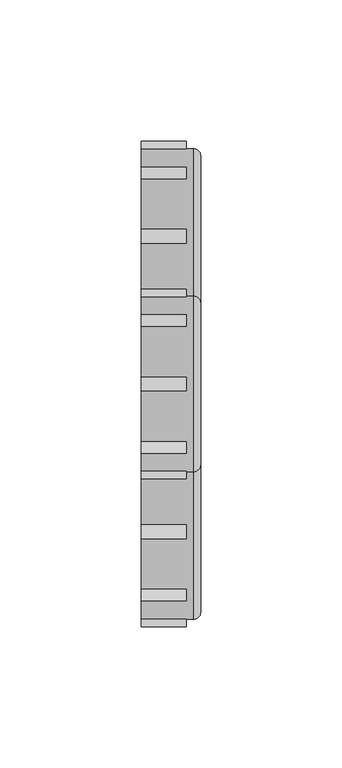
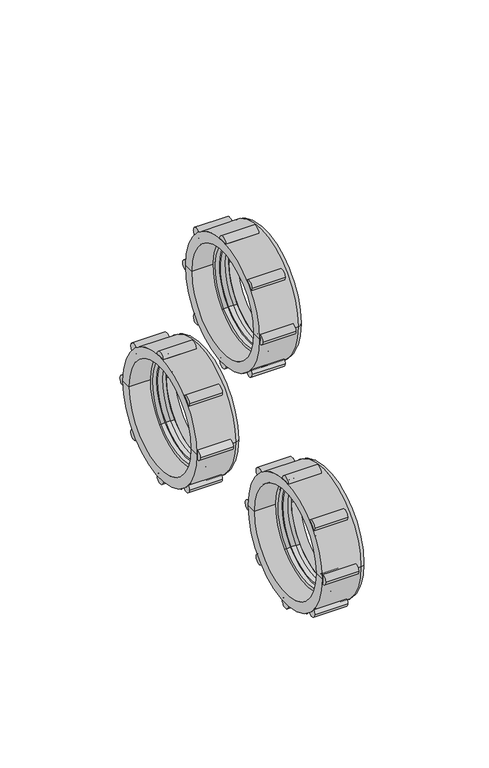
"""IFC4 building model written with IfcOpenShell, lengths in millimetres: pipe fitting geometry, Durapipe_PipeAccessories_VulcatheneMechanical_DilutionRecoveryTrap4.5L_W612 : W612 - 4.5 ltr."""

from ifc_helpers import new_model, si_unit, point, frame, frame_2d, origin, place, context, project, spatial, polyline, circle_curve, ellipse_curve, trimmed, segment, composite_curve, outline, extrude, source, transform, mapped, element, save
from ifc_brep_helpers import plane_surface, cylinder_surface, revolved_surface, advanced_brep


def pipe_fitting_c0f0be52(model_context):
    return source(origin(), model_context, "Body", "SolidModel", [
        advanced_brep(
        [(122.8995372, -33.9289169, -48.4765656), (122.8995372, -34.1410489, -48.2644336), (122.8995372, -70.3449161, -12.0605664), (122.8995372, -70.5570481, -11.8484344), (127.8995372, -70.8398908, -11.5655917), (127.8995372, -69.3549666, -13.0505159), (127.8995372, -35.1309984, -47.2744841), (127.8995372, -33.6460741, -48.7594083), (121.3995372, -70.3449161, -12.0605664), (121.3995372, -34.1410489, -48.2644336), (121.3995372, -35.1309984, -47.2744841), (121.3995372, -69.3549666, -13.0505159), (123.3995372, -35.1309984, -47.2744841), (123.3995372, -69.3549666, -13.0505159), (123.3995372, -35.6966838, -46.7087987), (123.3995372, -68.7892812, -13.6162013), (125.6995372, -69.3549666, -13.0505159), (125.6995372, -68.7892812, -13.6162013), (125.6995372, -35.6966838, -46.7087987), (125.6995372, -35.1309984, -47.2744841)],
        [
            (0, 1),
            (1, 2, circle_curve(frame((122.8995372, -52.2429825, -30.1625), z_axis=(1.0, 0.0, 0.0), x_axis=(0.0, 0.7071067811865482, -0.7071067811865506)), 25.6)),
            (2, 3),
            (3, 0, circle_curve(frame((122.8995372, -52.2429825, -30.1625), z_axis=(-1.0, 0.0, 0.0), x_axis=(0.0, 0.7071067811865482, -0.7071067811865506)), 25.9)),
            (2, 1, circle_curve(frame((122.8995372, -52.2429825, -30.1625), z_axis=(1.0, 0.0, 0.0), x_axis=(0.0, 0.7071067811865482, -0.7071067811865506)), 25.6)),
            (0, 3, circle_curve(frame((122.8995372, -52.2429825, -30.1625), z_axis=(-1.0, 0.0, 0.0), x_axis=(0.0, 0.7071067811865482, -0.7071067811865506)), 25.9)),
            (4, 5),
            (5, 6, circle_curve(frame((127.8995372, -52.2429825, -30.1625), z_axis=(-1.0, 0.0, 0.0), x_axis=(0.0, 0.7071067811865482, -0.7071067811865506)), 24.2)),
            (6, 7),
            (7, 4, circle_curve(frame((127.8995372, -52.2429825, -30.1625), z_axis=(1.0, 0.0, 0.0), x_axis=(0.0, 0.7071067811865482, -0.7071067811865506)), 26.3)),
            (6, 5, circle_curve(frame((127.8995372, -52.2429825, -30.1625), z_axis=(-1.0, 0.0, 0.0), x_axis=(0.0, 0.7071067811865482, -0.7071067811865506)), 24.2)),
            (4, 7, circle_curve(frame((127.8995372, -52.2429825, -30.1625), z_axis=(1.0, 0.0, 0.0), x_axis=(0.0, 0.7071067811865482, -0.7071067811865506)), 26.3)),
            (3, 4),
            (7, 0),
            (8, 2),
            (1, 9),
            (9, 8, circle_curve(frame((121.3995372, -52.2429825, -30.1625), z_axis=(1.0, 0.0, 0.0), x_axis=(0.0, 0.7071067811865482, -0.7071067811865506)), 25.6)),
            (8, 9, circle_curve(frame((121.3995372, -52.2429825, -30.1625), z_axis=(1.0, 0.0, 0.0), x_axis=(0.0, 0.7071067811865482, -0.7071067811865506)), 25.6)),
            (9, 10),
            (10, 11, circle_curve(frame((121.3995372, -52.2429825, -30.1625), z_axis=(1.0, 0.0, 0.0), x_axis=(0.0, 0.7071067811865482, -0.7071067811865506)), 24.2)),
            (11, 8),
            (11, 10, circle_curve(frame((121.3995372, -52.2429825, -30.1625), z_axis=(1.0, 0.0, 0.0), x_axis=(0.0, 0.7071067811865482, -0.7071067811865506)), 24.2)),
            (10, 12),
            (12, 13, circle_curve(frame((123.3995372, -52.2429825, -30.1625), z_axis=(1.0, 0.0, 0.0), x_axis=(0.0, 0.7071067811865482, -0.7071067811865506)), 24.2)),
            (13, 11),
            (13, 12, circle_curve(frame((123.3995372, -52.2429825, -30.1625), z_axis=(1.0, 0.0, 0.0), x_axis=(0.0, 0.7071067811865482, -0.7071067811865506)), 24.2)),
            (12, 14),
            (14, 15, circle_curve(frame((123.3995372, -52.2429825, -30.1625), z_axis=(1.0, 0.0, 0.0), x_axis=(0.0, 0.7071067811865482, -0.7071067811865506)), 23.4)),
            (15, 13),
            (15, 14, circle_curve(frame((123.3995372, -52.2429825, -30.1625), z_axis=(1.0, 0.0, 0.0), x_axis=(0.0, 0.7071067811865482, -0.7071067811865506)), 23.4)),
            (16, 17),
            (17, 18, circle_curve(frame((125.6995372, -52.2429825, -30.1625), z_axis=(-1.0, 0.0, 0.0), x_axis=(0.0, 0.7071067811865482, -0.7071067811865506)), 23.4)),
            (18, 19),
            (19, 16, circle_curve(frame((125.6995372, -52.2429825, -30.1625), z_axis=(1.0, 0.0, 0.0), x_axis=(0.0, 0.7071067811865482, -0.7071067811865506)), 24.2)),
            (18, 17, circle_curve(frame((125.6995372, -52.2429825, -30.1625), z_axis=(-1.0, 0.0, 0.0), x_axis=(0.0, 0.7071067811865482, -0.7071067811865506)), 23.4)),
            (16, 19, circle_curve(frame((125.6995372, -52.2429825, -30.1625), z_axis=(1.0, 0.0, 0.0), x_axis=(0.0, 0.7071067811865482, -0.7071067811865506)), 24.2)),
            (5, 16),
            (19, 6),
            (14, 18),
            (17, 15),
        ],
        [
            plane_surface(frame((122.8995372, -52.2429825, -30.1625), z_axis=(-1.0, 0.0, 0.0), x_axis=(0.0, 0.7071067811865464, -0.7071067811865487))),
            plane_surface(frame((127.8995372, -52.2429825, -30.1625), z_axis=(1.0, 0.0, 0.0), x_axis=(0.0, 0.7071067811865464, -0.7071067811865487))),
            revolved_surface(polyline([(127.8995372, -33.6460741, -48.7594083), (122.8995372, -33.9289169, -48.4765656)]), (132.8995372, -52.2429825, -30.1625), (-1.0000000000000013, 0.0, 0.0)),
            cylinder_surface(frame((119.3288815, -52.2429825, -30.1625), z_axis=(-1.0000000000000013, 0.0, 0.0), x_axis=(0.0, 0.7071067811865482, -0.7071067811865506)), 25.6),
            plane_surface(frame((121.3995372, -52.2429825, -30.1625), z_axis=(-1.0, 0.0, 0.0), x_axis=(0.0, 0.7071067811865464, -0.7071067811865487))),
            revolved_surface(polyline([(121.39953720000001, -35.13099839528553, -47.274484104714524), (123.39953720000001, -35.13099839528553, -47.274484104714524)]), (117.9065462, -52.2429825, -30.1625), (-1.0000000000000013, 0.0, 0.0)),
            plane_surface(frame((123.3995372, -52.2429825, -30.1625), z_axis=(-1.0, 0.0, 0.0), x_axis=(0.0, 0.7071067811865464, -0.7071067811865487))),
            plane_surface(frame((125.6995372, -52.2429825, -30.1625), z_axis=(1.0, 0.0, 0.0), x_axis=(0.0, 0.7071067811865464, -0.7071067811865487))),
            revolved_surface(polyline([(125.69953719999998, -35.13099839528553, -47.274484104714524), (127.89953719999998, -35.13099839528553, -47.274484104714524)]), (132.8995372, -52.2429825, -30.1625), (-1.0000000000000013, 0.0, 0.0)),
            revolved_surface(polyline([(123.39953719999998, -35.69668382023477, -46.70879867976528), (125.69953719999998, -35.69668382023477, -46.70879867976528)]), (129.4657296, -52.2429825, -30.1625), (-1.0000000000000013, 0.0, 0.0)),
        ],
        [
            (0, [[1, 2, 3, 4]]),
            (0, [[-3, 5, -1, 6]]),
            (1, [[7, 8, 9, 10]]),
            (1, [[11, -7, 12, -9]]),
            (2, [[13, -10, 14, -4]]),
            (2, [[-14, -12, -13, -6]]),
            (3, [[15, -2, 16, 17]]),
            (3, [[-5, -15, 18, -16]]),
            (4, [[19, 20, 21, -17]]),
            (4, [[-21, 22, -19, -18]]),
            (5, [[-20, 23, 24, 25]]),
            (5, [[26, -23, -22, -25]]),
            (6, [[27, 28, 29, -24]]),
            (6, [[-29, 30, -27, -26]]),
            (7, [[31, 32, 33, 34]]),
            (7, [[-33, 35, -31, 36]]),
            (8, [[37, -34, 38, -8]]),
            (8, [[-38, -36, -37, -11]]),
            (9, [[-28, 39, -32, 40]]),
            (9, [[-35, -39, -30, -40]]),
        ],
    ),
        advanced_brep(
        [(111.1995372, -83.2429825, -30.1625), (129.5995372, -83.2429825, -30.1625), (129.5995372, -21.2429825, -30.1625), (111.1995372, -21.2429825, -30.1625), (111.1995372, -78.2429825, -30.1625), (111.1995372, -26.2429825, -30.1625), (132.0995372, -80.7429825, -30.1625), (132.0995372, -76.2429825, -30.1625), (132.0995372, -28.2429825, -30.1625), (132.0995372, -23.7429825, -30.1625), (127.8995372, -78.2429825, -30.1625), (127.8995372, -26.2429825, -30.1625), (127.8995372, -76.2429825, -30.1625), (127.8995372, -28.2429825, -30.1625)],
        [
            (0, 1),
            (1, 2, circle_curve(frame((129.5995372, -52.2429825, -30.1625), z_axis=(-1.0, 0.0, 0.0), x_axis=(0.0, 1.0000000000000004, 0.0)), 31.0)),
            (2, 3),
            (3, 0, circle_curve(frame((111.1995372, -52.2429825, -30.1625), z_axis=(1.0, 0.0, 0.0), x_axis=(0.0, 1.0000000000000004, 0.0)), 31.0)),
            (2, 1, circle_curve(frame((129.5995372, -52.2429825, -30.1625), z_axis=(-1.0, 0.0, 0.0), x_axis=(0.0, 1.0000000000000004, 0.0)), 31.0)),
            (0, 3, circle_curve(frame((111.1995372, -52.2429825, -30.1625), z_axis=(1.0, 0.0, 0.0), x_axis=(0.0, 1.0000000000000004, 0.0)), 31.0)),
            (4, 0),
            (3, 5),
            (5, 4, circle_curve(frame((111.1995372, -52.2429825, -30.1625), z_axis=(1.0, 0.0, 0.0), x_axis=(0.0, 1.0000000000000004, 0.0)), 26.0)),
            (4, 5, circle_curve(frame((111.1995372, -52.2429825, -30.1625), z_axis=(1.0, 0.0, 0.0), x_axis=(0.0, 1.0000000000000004, 0.0)), 26.0)),
            (6, 7),
            (7, 8, circle_curve(frame((132.0995372, -52.2429825, -30.1625), z_axis=(-1.0, 0.0, 0.0), x_axis=(0.0, 1.0000000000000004, 0.0)), 24.0)),
            (8, 9),
            (9, 6, circle_curve(frame((132.0995372, -52.2429825, -30.1625), z_axis=(1.0, 0.0, 0.0), x_axis=(0.0, 1.0000000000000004, 0.0)), 28.5)),
            (8, 7, circle_curve(frame((132.0995372, -52.2429825, -30.1625), z_axis=(-1.0, 0.0, 0.0), x_axis=(0.0, 1.0000000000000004, 0.0)), 24.0)),
            (6, 9, circle_curve(frame((132.0995372, -52.2429825, -30.1625), z_axis=(1.0, 0.0, 0.0), x_axis=(0.0, 1.0000000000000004, 0.0)), 28.5)),
            (1, 6, circle_curve(frame((129.5995372, -80.7429825, -30.1625), z_axis=(0.0, 0.0, 1.0000000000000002), x_axis=(1.0000000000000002, 0.0, 0.0)), 2.5)),
            (9, 2, circle_curve(frame((129.5995372, -23.7429825, -30.1625), z_axis=(0.0, 0.0, 1.0000000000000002), x_axis=(1.0000000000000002, 0.0, 0.0)), 2.5)),
            (10, 4),
            (5, 11),
            (11, 10, circle_curve(frame((127.8995372, -52.2429825, -30.1625), z_axis=(1.0, 0.0, 0.0), x_axis=(0.0, 1.0000000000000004, 0.0)), 26.0)),
            (10, 11, circle_curve(frame((127.8995372, -52.2429825, -30.1625), z_axis=(1.0, 0.0, 0.0), x_axis=(0.0, 1.0000000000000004, 0.0)), 26.0)),
            (12, 10),
            (11, 13),
            (13, 12, circle_curve(frame((127.8995372, -52.2429825, -30.1625), z_axis=(1.0, 0.0, 0.0), x_axis=(0.0, 1.0000000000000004, 0.0)), 24.0)),
            (12, 13, circle_curve(frame((127.8995372, -52.2429825, -30.1625), z_axis=(1.0, 0.0, 0.0), x_axis=(0.0, 1.0000000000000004, 0.0)), 24.0)),
            (7, 12),
            (13, 8),
        ],
        [
            cylinder_surface(frame((1692.9013555, -52.2429825, -30.1625), z_axis=(-1.0000000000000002, 0.0, 0.0), x_axis=(0.0, 1.0000000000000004, 0.0)), 31.0),
            plane_surface(frame((111.1995372, -52.2429825, -30.1625), z_axis=(-1.0, 0.0, 0.0), x_axis=(0.0, 1.0, 0.0))),
            plane_surface(frame((132.0995372, -52.2429825, -30.1625), z_axis=(1.0, 0.0, 0.0), x_axis=(0.0, 1.0, 0.0))),
            revolved_surface(trimmed(ellipse_curve(frame((129.5995372, -23.7429825, -30.1625), z_axis=(0.0, 0.0, 1.0000000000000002), x_axis=(1.0000000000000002, 0.0, 0.0)), 2.5, 2.5), [point((132.0995372, -23.7429825, -30.1625))], [point((129.5995372, -21.2429825, -30.1625))], True, "CARTESIAN"), (1692.9013555, -52.2429825, -30.1625), (-1.0000000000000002, 0.0, 0.0)),
            revolved_surface(polyline([(111.19953719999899, -26.242982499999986, -30.1625), (127.89953719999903, -26.242982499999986, -30.1625)]), (1692.9013555, -52.2429825, -30.1625), (-1.0000000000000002, 0.0, 0.0)),
            plane_surface(frame((127.8995372, -52.2429825, -30.1625), z_axis=(-1.0, 0.0, 0.0), x_axis=(0.0, 1.0, 0.0))),
            revolved_surface(polyline([(127.89953719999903, -28.242982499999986, -30.1625), (132.09953719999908, -28.242982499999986, -30.1625)]), (1692.9013555, -52.2429825, -30.1625), (-1.0000000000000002, 0.0, 0.0)),
        ],
        [
            (0, [[1, 2, 3, 4]]),
            (0, [[-3, 5, -1, 6]]),
            (1, [[7, -4, 8, 9]]),
            (1, [[-8, -6, -7, 10]]),
            (2, [[11, 12, 13, 14]]),
            (2, [[-13, 15, -11, 16]]),
            (3, [[17, -14, 18, -2]]),
            (3, [[-18, -16, -17, -5]]),
            (4, [[19, -9, 20, 21]]),
            (4, [[-20, -10, -19, 22]]),
            (5, [[23, -21, 24, 25]]),
            (5, [[-24, -22, -23, 26]]),
            (6, [[27, -25, 28, -12]]),
            (6, [[-28, -26, -27, -15]]),
        ],
    ),
        extrude(outline(composite_curve([segment(trimmed(circle_curve(frame_2d((-52.2429825, -61.1625)), 2.5), [point((-54.7429825, -61.1625))], [point((-49.7429825, -61.1625))], False, "CARTESIAN"), True, "CONTINUOUS"), segment(trimmed(circle_curve(frame_2d((-52.2429825, -61.1625)), 2.5), [point((-49.7429825, -61.1625))], [point((-54.7429825, -61.1625))], False, "CARTESIAN"), True, "CONTINUOUS")], self_intersect=False)), frame((111.1995372, 0.0, 0.0), z_axis=(1.0, 0.0, 0.0), x_axis=(0.0, 1.0, 0.0)), (0.0, 0.0, 1.0), 15.9),
        extrude(outline(composite_curve([segment(trimmed(circle_curve(frame_2d((-30.3226723, -52.0828102)), 2.5), [point((-32.8226723, -52.0828102))], [point((-27.8226723, -52.0828102))], False, "CARTESIAN"), True, "CONTINUOUS"), segment(trimmed(circle_curve(frame_2d((-30.3226723, -52.0828102)), 2.5), [point((-27.8226723, -52.0828102))], [point((-32.8226723, -52.0828102))], False, "CARTESIAN"), True, "CONTINUOUS")], self_intersect=False)), frame((111.1995372, 0.0, 0.0), z_axis=(1.0, 0.0, 0.0), x_axis=(0.0, 1.0, 0.0)), (0.0, 0.0, 1.0), 15.9),
        extrude(outline(composite_curve([segment(trimmed(circle_curve(frame_2d((-21.2429825, -30.1625)), 2.5), [point((-23.7429825, -30.1625))], [point((-18.7429825, -30.1625))], False, "CARTESIAN"), True, "CONTINUOUS"), segment(trimmed(circle_curve(frame_2d((-21.2429825, -30.1625)), 2.5), [point((-18.7429825, -30.1625))], [point((-23.7429825, -30.1625))], False, "CARTESIAN"), True, "CONTINUOUS")], self_intersect=False)), frame((111.1995372, 0.0, 0.0), z_axis=(1.0, 0.0, 0.0), x_axis=(0.0, 1.0, 0.0)), (0.0, 0.0, 1.0), 15.9),
        extrude(outline(composite_curve([segment(trimmed(circle_curve(frame_2d((-30.3226723, -8.2421898)), 2.5), [point((-32.8226723, -8.2421898))], [point((-27.8226723, -8.2421898))], False, "CARTESIAN"), True, "CONTINUOUS"), segment(trimmed(circle_curve(frame_2d((-30.3226723, -8.2421898)), 2.5), [point((-27.8226723, -8.2421898))], [point((-32.8226723, -8.2421898))], False, "CARTESIAN"), True, "CONTINUOUS")], self_intersect=False)), frame((111.1995372, 0.0, 0.0), z_axis=(1.0, 0.0, 0.0), x_axis=(0.0, 1.0, 0.0)), (0.0, 0.0, 1.0), 15.9),
        extrude(outline(composite_curve([segment(trimmed(circle_curve(frame_2d((-52.2429825, 0.8375)), 2.5), [point((-54.7429825, 0.8375))], [point((-49.7429825, 0.8375))], False, "CARTESIAN"), True, "CONTINUOUS"), segment(trimmed(circle_curve(frame_2d((-52.2429825, 0.8375)), 2.5), [point((-49.7429825, 0.8375))], [point((-54.7429825, 0.8375))], False, "CARTESIAN"), True, "CONTINUOUS")], self_intersect=False)), frame((111.1995372, 0.0, 0.0), z_axis=(1.0, 0.0, 0.0), x_axis=(0.0, 1.0, 0.0)), (0.0, 0.0, 1.0), 15.9),
        extrude(outline(composite_curve([segment(trimmed(circle_curve(frame_2d((-74.1632927, -8.2421898)), 2.5), [point((-76.6632927, -8.2421898))], [point((-71.6632927, -8.2421898))], False, "CARTESIAN"), True, "CONTINUOUS"), segment(trimmed(circle_curve(frame_2d((-74.1632927, -8.2421898)), 2.5), [point((-71.6632927, -8.2421898))], [point((-76.6632927, -8.2421898))], False, "CARTESIAN"), True, "CONTINUOUS")], self_intersect=False)), frame((111.1995372, 0.0, 0.0), z_axis=(1.0, 0.0, 0.0), x_axis=(0.0, 1.0, 0.0)), (0.0, 0.0, 1.0), 15.9),
        extrude(outline(composite_curve([segment(trimmed(circle_curve(frame_2d((-83.2429825, -30.1625)), 2.5), [point((-85.7429825, -30.1625))], [point((-80.7429825, -30.1625))], False, "CARTESIAN"), True, "CONTINUOUS"), segment(trimmed(circle_curve(frame_2d((-83.2429825, -30.1625)), 2.5), [point((-80.7429825, -30.1625))], [point((-85.7429825, -30.1625))], False, "CARTESIAN"), True, "CONTINUOUS")], self_intersect=False)), frame((111.1995372, 0.0, 0.0), z_axis=(1.0, 0.0, 0.0), x_axis=(0.0, 1.0, 0.0)), (0.0, 0.0, 1.0), 15.9),
        extrude(outline(composite_curve([segment(trimmed(circle_curve(frame_2d((-74.1632927, -52.0828102)), 2.5), [point((-76.6632927, -52.0828102))], [point((-71.6632927, -52.0828102))], False, "CARTESIAN"), True, "CONTINUOUS"), segment(trimmed(circle_curve(frame_2d((-74.1632927, -52.0828102)), 2.5), [point((-71.6632927, -52.0828102))], [point((-76.6632927, -52.0828102))], False, "CARTESIAN"), True, "CONTINUOUS")], self_intersect=False)), frame((111.1995372, 0.0, 0.0), z_axis=(1.0, 0.0, 0.0), x_axis=(0.0, 1.0, 0.0)), (0.0, 0.0, 1.0), 15.9),
        advanced_brep(
        [(122.8995372, 70.5570481, -48.4765656), (122.8995372, 70.3449161, -48.2644336), (122.8995372, 34.1410489, -12.0605664), (122.8995372, 33.9289169, -11.8484344), (127.8995372, 33.6460741, -11.5655917), (127.8995372, 35.1309984, -13.0505159), (127.8995372, 69.3549666, -47.2744841), (127.8995372, 70.8398908, -48.7594083), (121.3995372, 34.1410489, -12.0605664), (121.3995372, 70.3449161, -48.2644336), (121.3995372, 69.3549666, -47.2744841), (121.3995372, 35.1309984, -13.0505159), (123.3995372, 69.3549666, -47.2744841), (123.3995372, 35.1309984, -13.0505159), (123.3995372, 68.7892812, -46.7087987), (123.3995372, 35.6966838, -13.6162013), (125.6995372, 35.1309984, -13.0505159), (125.6995372, 35.6966838, -13.6162013), (125.6995372, 68.7892812, -46.7087987), (125.6995372, 69.3549666, -47.2744841)],
        [
            (0, 1),
            (1, 2, circle_curve(frame((122.8995372, 52.2429825, -30.1625), z_axis=(1.0, 0.0, 0.0), x_axis=(0.0, 0.7071067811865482, -0.7071067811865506)), 25.6)),
            (2, 3),
            (3, 0, circle_curve(frame((122.8995372, 52.2429825, -30.1625), z_axis=(-1.0, 0.0, 0.0), x_axis=(0.0, 0.7071067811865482, -0.7071067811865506)), 25.9)),
            (2, 1, circle_curve(frame((122.8995372, 52.2429825, -30.1625), z_axis=(1.0, 0.0, 0.0), x_axis=(0.0, 0.7071067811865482, -0.7071067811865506)), 25.6)),
            (0, 3, circle_curve(frame((122.8995372, 52.2429825, -30.1625), z_axis=(-1.0, 0.0, 0.0), x_axis=(0.0, 0.7071067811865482, -0.7071067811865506)), 25.9)),
            (4, 5),
            (5, 6, circle_curve(frame((127.8995372, 52.2429825, -30.1625), z_axis=(-1.0, 0.0, 0.0), x_axis=(0.0, 0.7071067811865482, -0.7071067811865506)), 24.2)),
            (6, 7),
            (7, 4, circle_curve(frame((127.8995372, 52.2429825, -30.1625), z_axis=(1.0, 0.0, 0.0), x_axis=(0.0, 0.7071067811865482, -0.7071067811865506)), 26.3)),
            (6, 5, circle_curve(frame((127.8995372, 52.2429825, -30.1625), z_axis=(-1.0, 0.0, 0.0), x_axis=(0.0, 0.7071067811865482, -0.7071067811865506)), 24.2)),
            (4, 7, circle_curve(frame((127.8995372, 52.2429825, -30.1625), z_axis=(1.0, 0.0, 0.0), x_axis=(0.0, 0.7071067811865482, -0.7071067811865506)), 26.3)),
            (3, 4),
            (7, 0),
            (8, 2),
            (1, 9),
            (9, 8, circle_curve(frame((121.3995372, 52.2429825, -30.1625), z_axis=(1.0, 0.0, 0.0), x_axis=(0.0, 0.7071067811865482, -0.7071067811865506)), 25.6)),
            (8, 9, circle_curve(frame((121.3995372, 52.2429825, -30.1625), z_axis=(1.0, 0.0, 0.0), x_axis=(0.0, 0.7071067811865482, -0.7071067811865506)), 25.6)),
            (9, 10),
            (10, 11, circle_curve(frame((121.3995372, 52.2429825, -30.1625), z_axis=(1.0, 0.0, 0.0), x_axis=(0.0, 0.7071067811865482, -0.7071067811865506)), 24.2)),
            (11, 8),
            (11, 10, circle_curve(frame((121.3995372, 52.2429825, -30.1625), z_axis=(1.0, 0.0, 0.0), x_axis=(0.0, 0.7071067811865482, -0.7071067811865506)), 24.2)),
            (10, 12),
            (12, 13, circle_curve(frame((123.3995372, 52.2429825, -30.1625), z_axis=(1.0, 0.0, 0.0), x_axis=(0.0, 0.7071067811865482, -0.7071067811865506)), 24.2)),
            (13, 11),
            (13, 12, circle_curve(frame((123.3995372, 52.2429825, -30.1625), z_axis=(1.0, 0.0, 0.0), x_axis=(0.0, 0.7071067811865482, -0.7071067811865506)), 24.2)),
            (12, 14),
            (14, 15, circle_curve(frame((123.3995372, 52.2429825, -30.1625), z_axis=(1.0, 0.0, 0.0), x_axis=(0.0, 0.7071067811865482, -0.7071067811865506)), 23.4)),
            (15, 13),
            (15, 14, circle_curve(frame((123.3995372, 52.2429825, -30.1625), z_axis=(1.0, 0.0, 0.0), x_axis=(0.0, 0.7071067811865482, -0.7071067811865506)), 23.4)),
            (16, 17),
            (17, 18, circle_curve(frame((125.6995372, 52.2429825, -30.1625), z_axis=(-1.0, 0.0, 0.0), x_axis=(0.0, 0.7071067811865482, -0.7071067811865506)), 23.4)),
            (18, 19),
            (19, 16, circle_curve(frame((125.6995372, 52.2429825, -30.1625), z_axis=(1.0, 0.0, 0.0), x_axis=(0.0, 0.7071067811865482, -0.7071067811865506)), 24.2)),
            (18, 17, circle_curve(frame((125.6995372, 52.2429825, -30.1625), z_axis=(-1.0, 0.0, 0.0), x_axis=(0.0, 0.7071067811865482, -0.7071067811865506)), 23.4)),
            (16, 19, circle_curve(frame((125.6995372, 52.2429825, -30.1625), z_axis=(1.0, 0.0, 0.0), x_axis=(0.0, 0.7071067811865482, -0.7071067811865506)), 24.2)),
            (5, 16),
            (19, 6),
            (14, 18),
            (17, 15),
        ],
        [
            plane_surface(frame((122.8995372, 52.2429825, -30.1625), z_axis=(-1.0, 0.0, 0.0), x_axis=(0.0, 0.7071067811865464, -0.7071067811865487))),
            plane_surface(frame((127.8995372, 52.2429825, -30.1625), z_axis=(1.0, 0.0, 0.0), x_axis=(0.0, 0.7071067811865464, -0.7071067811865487))),
            revolved_surface(polyline([(127.8995372, 70.8398908, -48.7594083), (122.8995372, 70.5570481, -48.4765656)]), (132.8995372, 52.2429825, -30.1625), (-1.0000000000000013, 0.0, 0.0)),
            cylinder_surface(frame((119.3288815, 52.2429825, -30.1625), z_axis=(-1.0000000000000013, 0.0, 0.0), x_axis=(0.0, 0.7071067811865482, -0.7071067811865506)), 25.6),
            plane_surface(frame((121.3995372, 52.2429825, -30.1625), z_axis=(-1.0, 0.0, 0.0), x_axis=(0.0, 0.7071067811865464, -0.7071067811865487))),
            revolved_surface(polyline([(121.39953720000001, 69.35496660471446, -47.274484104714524), (123.39953720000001, 69.35496660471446, -47.274484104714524)]), (117.9065462, 52.2429825, -30.1625), (-1.0000000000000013, 0.0, 0.0)),
            plane_surface(frame((123.3995372, 52.2429825, -30.1625), z_axis=(-1.0, 0.0, 0.0), x_axis=(0.0, 0.7071067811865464, -0.7071067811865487))),
            plane_surface(frame((125.6995372, 52.2429825, -30.1625), z_axis=(1.0, 0.0, 0.0), x_axis=(0.0, 0.7071067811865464, -0.7071067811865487))),
            revolved_surface(polyline([(125.69953719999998, 69.35496660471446, -47.274484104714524), (127.89953719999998, 69.35496660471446, -47.274484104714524)]), (132.8995372, 52.2429825, -30.1625), (-1.0000000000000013, 0.0, 0.0)),
            revolved_surface(polyline([(123.39953719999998, 68.78928117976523, -46.70879867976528), (125.69953719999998, 68.78928117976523, -46.70879867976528)]), (129.4657296, 52.2429825, -30.1625), (-1.0000000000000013, 0.0, 0.0)),
        ],
        [
            (0, [[1, 2, 3, 4]]),
            (0, [[-3, 5, -1, 6]]),
            (1, [[7, 8, 9, 10]]),
            (1, [[11, -7, 12, -9]]),
            (2, [[13, -10, 14, -4]]),
            (2, [[-14, -12, -13, -6]]),
            (3, [[15, -2, 16, 17]]),
            (3, [[-5, -15, 18, -16]]),
            (4, [[19, 20, 21, -17]]),
            (4, [[-21, 22, -19, -18]]),
            (5, [[-20, 23, 24, 25]]),
            (5, [[26, -23, -22, -25]]),
            (6, [[27, 28, 29, -24]]),
            (6, [[-29, 30, -27, -26]]),
            (7, [[31, 32, 33, 34]]),
            (7, [[-33, 35, -31, 36]]),
            (8, [[37, -34, 38, -8]]),
            (8, [[-38, -36, -37, -11]]),
            (9, [[-28, 39, -32, 40]]),
            (9, [[-35, -39, -30, -40]]),
        ],
    ),
        advanced_brep(
        [(111.1995372, 21.2429825, -30.1625), (129.5995372, 21.2429825, -30.1625), (129.5995372, 83.2429825, -30.1625), (111.1995372, 83.2429825, -30.1625), (111.1995372, 26.2429825, -30.1625), (111.1995372, 78.2429825, -30.1625), (132.0995372, 23.7429825, -30.1625), (132.0995372, 28.2429825, -30.1625), (132.0995372, 76.2429825, -30.1625), (132.0995372, 80.7429825, -30.1625), (127.8995372, 26.2429825, -30.1625), (127.8995372, 78.2429825, -30.1625), (127.8995372, 28.2429825, -30.1625), (127.8995372, 76.2429825, -30.1625)],
        [
            (0, 1),
            (1, 2, circle_curve(frame((129.5995372, 52.2429825, -30.1625), z_axis=(-1.0, 0.0, 0.0), x_axis=(0.0, 1.0000000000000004, 0.0)), 31.0)),
            (2, 3),
            (3, 0, circle_curve(frame((111.1995372, 52.2429825, -30.1625), z_axis=(1.0, 0.0, 0.0), x_axis=(0.0, 1.0000000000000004, 0.0)), 31.0)),
            (2, 1, circle_curve(frame((129.5995372, 52.2429825, -30.1625), z_axis=(-1.0, 0.0, 0.0), x_axis=(0.0, 1.0000000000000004, 0.0)), 31.0)),
            (0, 3, circle_curve(frame((111.1995372, 52.2429825, -30.1625), z_axis=(1.0, 0.0, 0.0), x_axis=(0.0, 1.0000000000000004, 0.0)), 31.0)),
            (4, 0),
            (3, 5),
            (5, 4, circle_curve(frame((111.1995372, 52.2429825, -30.1625), z_axis=(1.0, 0.0, 0.0), x_axis=(0.0, 1.0000000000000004, 0.0)), 26.0)),
            (4, 5, circle_curve(frame((111.1995372, 52.2429825, -30.1625), z_axis=(1.0, 0.0, 0.0), x_axis=(0.0, 1.0000000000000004, 0.0)), 26.0)),
            (6, 7),
            (7, 8, circle_curve(frame((132.0995372, 52.2429825, -30.1625), z_axis=(-1.0, 0.0, 0.0), x_axis=(0.0, 1.0000000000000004, 0.0)), 24.0)),
            (8, 9),
            (9, 6, circle_curve(frame((132.0995372, 52.2429825, -30.1625), z_axis=(1.0, 0.0, 0.0), x_axis=(0.0, 1.0000000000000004, 0.0)), 28.5)),
            (8, 7, circle_curve(frame((132.0995372, 52.2429825, -30.1625), z_axis=(-1.0, 0.0, 0.0), x_axis=(0.0, 1.0000000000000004, 0.0)), 24.0)),
            (6, 9, circle_curve(frame((132.0995372, 52.2429825, -30.1625), z_axis=(1.0, 0.0, 0.0), x_axis=(0.0, 1.0000000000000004, 0.0)), 28.5)),
            (1, 6, circle_curve(frame((129.5995372, 23.7429825, -30.1625), z_axis=(0.0, 0.0, 1.0000000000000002), x_axis=(1.0000000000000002, 0.0, 0.0)), 2.5)),
            (9, 2, circle_curve(frame((129.5995372, 80.7429825, -30.1625), z_axis=(0.0, 0.0, 1.0000000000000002), x_axis=(1.0000000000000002, 0.0, 0.0)), 2.5)),
            (10, 4),
            (5, 11),
            (11, 10, circle_curve(frame((127.8995372, 52.2429825, -30.1625), z_axis=(1.0, 0.0, 0.0), x_axis=(0.0, 1.0000000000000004, 0.0)), 26.0)),
            (10, 11, circle_curve(frame((127.8995372, 52.2429825, -30.1625), z_axis=(1.0, 0.0, 0.0), x_axis=(0.0, 1.0000000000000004, 0.0)), 26.0)),
            (12, 10),
            (11, 13),
            (13, 12, circle_curve(frame((127.8995372, 52.2429825, -30.1625), z_axis=(1.0, 0.0, 0.0), x_axis=(0.0, 1.0000000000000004, 0.0)), 24.0)),
            (12, 13, circle_curve(frame((127.8995372, 52.2429825, -30.1625), z_axis=(1.0, 0.0, 0.0), x_axis=(0.0, 1.0000000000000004, 0.0)), 24.0)),
            (7, 12),
            (13, 8),
        ],
        [
            cylinder_surface(frame((1692.9013555, 52.2429825, -30.1625), z_axis=(-1.0000000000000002, 0.0, 0.0), x_axis=(0.0, 1.0000000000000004, 0.0)), 31.0),
            plane_surface(frame((111.1995372, 52.2429825, -30.1625), z_axis=(-1.0, 0.0, 0.0), x_axis=(0.0, 1.0, 0.0))),
            plane_surface(frame((132.0995372, 52.2429825, -30.1625), z_axis=(1.0, 0.0, 0.0), x_axis=(0.0, 1.0, 0.0))),
            revolved_surface(trimmed(ellipse_curve(frame((129.5995372, 80.7429825, -30.1625), z_axis=(0.0, 0.0, 1.0000000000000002), x_axis=(1.0000000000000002, 0.0, 0.0)), 2.5, 2.5), [point((132.0995372, 80.7429825, -30.1625))], [point((129.5995372, 83.2429825, -30.1625))], True, "CARTESIAN"), (1692.9013555, 52.2429825, -30.1625), (-1.0000000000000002, 0.0, 0.0)),
            revolved_surface(polyline([(111.19953719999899, 78.24298250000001, -30.1625), (127.89953719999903, 78.24298250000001, -30.1625)]), (1692.9013555, 52.2429825, -30.1625), (-1.0000000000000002, 0.0, 0.0)),
            plane_surface(frame((127.8995372, 52.2429825, -30.1625), z_axis=(-1.0, 0.0, 0.0), x_axis=(0.0, 1.0, 0.0))),
            revolved_surface(polyline([(127.89953719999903, 76.24298250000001, -30.1625), (132.09953719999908, 76.24298250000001, -30.1625)]), (1692.9013555, 52.2429825, -30.1625), (-1.0000000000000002, 0.0, 0.0)),
        ],
        [
            (0, [[1, 2, 3, 4]]),
            (0, [[-3, 5, -1, 6]]),
            (1, [[7, -4, 8, 9]]),
            (1, [[-8, -6, -7, 10]]),
            (2, [[11, 12, 13, 14]]),
            (2, [[-13, 15, -11, 16]]),
            (3, [[17, -14, 18, -2]]),
            (3, [[-18, -16, -17, -5]]),
            (4, [[19, -9, 20, 21]]),
            (4, [[-20, -10, -19, 22]]),
            (5, [[23, -21, 24, 25]]),
            (5, [[-24, -22, -23, 26]]),
            (6, [[27, -25, 28, -12]]),
            (6, [[-28, -26, -27, -15]]),
        ],
    ),
        extrude(outline(composite_curve([segment(trimmed(circle_curve(frame_2d((52.2429825, -61.1625)), 2.5), [point((49.7429825, -61.1625))], [point((54.7429825, -61.1625))], False, "CARTESIAN"), True, "CONTINUOUS"), segment(trimmed(circle_curve(frame_2d((52.2429825, -61.1625)), 2.5), [point((54.7429825, -61.1625))], [point((49.7429825, -61.1625))], False, "CARTESIAN"), True, "CONTINUOUS")], self_intersect=False)), frame((111.1995372, 0.0, 0.0), z_axis=(1.0, 0.0, 0.0), x_axis=(0.0, 1.0, 0.0)), (0.0, 0.0, 1.0), 15.9),
        extrude(outline(composite_curve([segment(trimmed(circle_curve(frame_2d((74.1632927, -52.0828102)), 2.5), [point((71.6632927, -52.0828102))], [point((76.6632927, -52.0828102))], False, "CARTESIAN"), True, "CONTINUOUS"), segment(trimmed(circle_curve(frame_2d((74.1632927, -52.0828102)), 2.5), [point((76.6632927, -52.0828102))], [point((71.6632927, -52.0828102))], False, "CARTESIAN"), True, "CONTINUOUS")], self_intersect=False)), frame((111.1995372, 0.0, 0.0), z_axis=(1.0, 0.0, 0.0), x_axis=(0.0, 1.0, 0.0)), (0.0, 0.0, 1.0), 15.9),
        extrude(outline(composite_curve([segment(trimmed(circle_curve(frame_2d((83.2429825, -30.1625)), 2.5), [point((80.7429825, -30.1625))], [point((85.7429825, -30.1625))], False, "CARTESIAN"), True, "CONTINUOUS"), segment(trimmed(circle_curve(frame_2d((83.2429825, -30.1625)), 2.5), [point((85.7429825, -30.1625))], [point((80.7429825, -30.1625))], False, "CARTESIAN"), True, "CONTINUOUS")], self_intersect=False)), frame((111.1995372, 0.0, 0.0), z_axis=(1.0, 0.0, 0.0), x_axis=(0.0, 1.0, 0.0)), (0.0, 0.0, 1.0), 15.9),
        extrude(outline(composite_curve([segment(trimmed(circle_curve(frame_2d((74.1632927, -8.2421898)), 2.5), [point((71.6632927, -8.2421898))], [point((76.6632927, -8.2421898))], False, "CARTESIAN"), True, "CONTINUOUS"), segment(trimmed(circle_curve(frame_2d((74.1632927, -8.2421898)), 2.5), [point((76.6632927, -8.2421898))], [point((71.6632927, -8.2421898))], False, "CARTESIAN"), True, "CONTINUOUS")], self_intersect=False)), frame((111.1995372, 0.0, 0.0), z_axis=(1.0, 0.0, 0.0), x_axis=(0.0, 1.0, 0.0)), (0.0, 0.0, 1.0), 15.9),
        extrude(outline(composite_curve([segment(trimmed(circle_curve(frame_2d((52.2429825, 0.8375)), 2.5), [point((49.7429825, 0.8375))], [point((54.7429825, 0.8375))], False, "CARTESIAN"), True, "CONTINUOUS"), segment(trimmed(circle_curve(frame_2d((52.2429825, 0.8375)), 2.5), [point((54.7429825, 0.8375))], [point((49.7429825, 0.8375))], False, "CARTESIAN"), True, "CONTINUOUS")], self_intersect=False)), frame((111.1995372, 0.0, 0.0), z_axis=(1.0, 0.0, 0.0), x_axis=(0.0, 1.0, 0.0)), (0.0, 0.0, 1.0), 15.9),
        extrude(outline(composite_curve([segment(trimmed(circle_curve(frame_2d((30.3226723, -8.2421898)), 2.5), [point((27.8226723, -8.2421898))], [point((32.8226723, -8.2421898))], False, "CARTESIAN"), True, "CONTINUOUS"), segment(trimmed(circle_curve(frame_2d((30.3226723, -8.2421898)), 2.5), [point((32.8226723, -8.2421898))], [point((27.8226723, -8.2421898))], False, "CARTESIAN"), True, "CONTINUOUS")], self_intersect=False)), frame((111.1995372, 0.0, 0.0), z_axis=(1.0, 0.0, 0.0), x_axis=(0.0, 1.0, 0.0)), (0.0, 0.0, 1.0), 15.9),
        extrude(outline(composite_curve([segment(trimmed(circle_curve(frame_2d((21.2429825, -30.1625)), 2.5), [point((18.7429825, -30.1625))], [point((23.7429825, -30.1625))], False, "CARTESIAN"), True, "CONTINUOUS"), segment(trimmed(circle_curve(frame_2d((21.2429825, -30.1625)), 2.5), [point((23.7429825, -30.1625))], [point((18.7429825, -30.1625))], False, "CARTESIAN"), True, "CONTINUOUS")], self_intersect=False)), frame((111.1995372, 0.0, 0.0), z_axis=(1.0, 0.0, 0.0), x_axis=(0.0, 1.0, 0.0)), (0.0, 0.0, 1.0), 15.9),
        extrude(outline(composite_curve([segment(trimmed(circle_curve(frame_2d((30.3226723, -52.0828102)), 2.5), [point((27.8226723, -52.0828102))], [point((32.8226723, -52.0828102))], False, "CARTESIAN"), True, "CONTINUOUS"), segment(trimmed(circle_curve(frame_2d((30.3226723, -52.0828102)), 2.5), [point((32.8226723, -52.0828102))], [point((27.8226723, -52.0828102))], False, "CARTESIAN"), True, "CONTINUOUS")], self_intersect=False)), frame((111.1995372, 0.0, 0.0), z_axis=(1.0, 0.0, 0.0), x_axis=(0.0, 1.0, 0.0)), (0.0, 0.0, 1.0), 15.9),
        advanced_brep(
        [(122.8995372, 18.3140656, 42.0109344), (122.8995372, 18.1019336, 42.2230664), (122.8995372, -18.1019336, 78.4269336), (122.8995372, -18.3140656, 78.6390656), (127.8995372, -18.5969083, 78.9219083), (127.8995372, -17.1119841, 77.4369841), (127.8995372, 17.1119841, 43.2130159), (127.8995372, 18.5969083, 41.7280917), (121.3995372, -18.1019336, 78.4269336), (121.3995372, 18.1019336, 42.2230664), (121.3995372, 17.1119841, 43.2130159), (121.3995372, -17.1119841, 77.4369841), (123.3995372, 17.1119841, 43.2130159), (123.3995372, -17.1119841, 77.4369841), (123.3995372, 16.5462987, 43.7787013), (123.3995372, -16.5462987, 76.8712987), (125.6995372, -17.1119841, 77.4369841), (125.6995372, -16.5462987, 76.8712987), (125.6995372, 16.5462987, 43.7787013), (125.6995372, 17.1119841, 43.2130159)],
        [
            (0, 1),
            (1, 2, circle_curve(frame((122.8995372, 0.0, 60.325), z_axis=(1.0, 0.0, 0.0), x_axis=(0.0, 0.7071067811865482, -0.7071067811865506)), 25.6)),
            (2, 3),
            (3, 0, circle_curve(frame((122.8995372, 0.0, 60.325), z_axis=(-1.0, 0.0, 0.0), x_axis=(0.0, 0.7071067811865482, -0.7071067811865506)), 25.9)),
            (2, 1, circle_curve(frame((122.8995372, 0.0, 60.325), z_axis=(1.0, 0.0, 0.0), x_axis=(0.0, 0.7071067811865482, -0.7071067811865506)), 25.6)),
            (0, 3, circle_curve(frame((122.8995372, 0.0, 60.325), z_axis=(-1.0, 0.0, 0.0), x_axis=(0.0, 0.7071067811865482, -0.7071067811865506)), 25.9)),
            (4, 5),
            (5, 6, circle_curve(frame((127.8995372, 0.0, 60.325), z_axis=(-1.0, 0.0, 0.0), x_axis=(0.0, 0.7071067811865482, -0.7071067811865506)), 24.2)),
            (6, 7),
            (7, 4, circle_curve(frame((127.8995372, 0.0, 60.325), z_axis=(1.0, 0.0, 0.0), x_axis=(0.0, 0.7071067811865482, -0.7071067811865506)), 26.3)),
            (6, 5, circle_curve(frame((127.8995372, 0.0, 60.325), z_axis=(-1.0, 0.0, 0.0), x_axis=(0.0, 0.7071067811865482, -0.7071067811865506)), 24.2)),
            (4, 7, circle_curve(frame((127.8995372, 0.0, 60.325), z_axis=(1.0, 0.0, 0.0), x_axis=(0.0, 0.7071067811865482, -0.7071067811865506)), 26.3)),
            (3, 4),
            (7, 0),
            (8, 2),
            (1, 9),
            (9, 8, circle_curve(frame((121.3995372, 0.0, 60.325), z_axis=(1.0, 0.0, 0.0), x_axis=(0.0, 0.7071067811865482, -0.7071067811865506)), 25.6)),
            (8, 9, circle_curve(frame((121.3995372, 0.0, 60.325), z_axis=(1.0, 0.0, 0.0), x_axis=(0.0, 0.7071067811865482, -0.7071067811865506)), 25.6)),
            (9, 10),
            (10, 11, circle_curve(frame((121.3995372, 0.0, 60.325), z_axis=(1.0, 0.0, 0.0), x_axis=(0.0, 0.7071067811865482, -0.7071067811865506)), 24.2)),
            (11, 8),
            (11, 10, circle_curve(frame((121.3995372, 0.0, 60.325), z_axis=(1.0, 0.0, 0.0), x_axis=(0.0, 0.7071067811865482, -0.7071067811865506)), 24.2)),
            (10, 12),
            (12, 13, circle_curve(frame((123.3995372, 0.0, 60.325), z_axis=(1.0, 0.0, 0.0), x_axis=(0.0, 0.7071067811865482, -0.7071067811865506)), 24.2)),
            (13, 11),
            (13, 12, circle_curve(frame((123.3995372, 0.0, 60.325), z_axis=(1.0, 0.0, 0.0), x_axis=(0.0, 0.7071067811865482, -0.7071067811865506)), 24.2)),
            (12, 14),
            (14, 15, circle_curve(frame((123.3995372, 0.0, 60.325), z_axis=(1.0, 0.0, 0.0), x_axis=(0.0, 0.7071067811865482, -0.7071067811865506)), 23.4)),
            (15, 13),
            (15, 14, circle_curve(frame((123.3995372, 0.0, 60.325), z_axis=(1.0, 0.0, 0.0), x_axis=(0.0, 0.7071067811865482, -0.7071067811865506)), 23.4)),
            (16, 17),
            (17, 18, circle_curve(frame((125.6995372, 0.0, 60.325), z_axis=(-1.0, 0.0, 0.0), x_axis=(0.0, 0.7071067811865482, -0.7071067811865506)), 23.4)),
            (18, 19),
            (19, 16, circle_curve(frame((125.6995372, 0.0, 60.325), z_axis=(1.0, 0.0, 0.0), x_axis=(0.0, 0.7071067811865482, -0.7071067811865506)), 24.2)),
            (18, 17, circle_curve(frame((125.6995372, 0.0, 60.325), z_axis=(-1.0, 0.0, 0.0), x_axis=(0.0, 0.7071067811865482, -0.7071067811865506)), 23.4)),
            (16, 19, circle_curve(frame((125.6995372, 0.0, 60.325), z_axis=(1.0, 0.0, 0.0), x_axis=(0.0, 0.7071067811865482, -0.7071067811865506)), 24.2)),
            (5, 16),
            (19, 6),
            (14, 18),
            (17, 15),
        ],
        [
            plane_surface(frame((122.8995372, 0.0, 60.325), z_axis=(-1.0, 0.0, 0.0), x_axis=(0.0, 0.7071067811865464, -0.7071067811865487))),
            plane_surface(frame((127.8995372, 0.0, 60.325), z_axis=(1.0, 0.0, 0.0), x_axis=(0.0, 0.7071067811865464, -0.7071067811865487))),
            revolved_surface(polyline([(127.8995372, 18.5969083, 41.7280917), (122.8995372, 18.3140656, 42.0109344)]), (132.8995372, 0.0, 60.325), (-1.0000000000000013, 0.0, 0.0)),
            cylinder_surface(frame((119.3288815, 0.0, 60.325), z_axis=(-1.0000000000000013, 0.0, 0.0), x_axis=(0.0, 0.7071067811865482, -0.7071067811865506)), 25.6),
            plane_surface(frame((121.3995372, 0.0, 60.325), z_axis=(-1.0, 0.0, 0.0), x_axis=(0.0, 0.7071067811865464, -0.7071067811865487))),
            revolved_surface(polyline([(121.39953720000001, 17.111984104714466, 43.21301589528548), (123.39953720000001, 17.111984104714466, 43.21301589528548)]), (117.9065462, 0.0, 60.325), (-1.0000000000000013, 0.0, 0.0)),
            plane_surface(frame((123.3995372, 0.0, 60.325), z_axis=(-1.0, 0.0, 0.0), x_axis=(0.0, 0.7071067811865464, -0.7071067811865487))),
            plane_surface(frame((125.6995372, 0.0, 60.325), z_axis=(1.0, 0.0, 0.0), x_axis=(0.0, 0.7071067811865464, -0.7071067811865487))),
            revolved_surface(polyline([(125.69953719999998, 17.111984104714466, 43.21301589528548), (127.89953719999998, 17.111984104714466, 43.21301589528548)]), (132.8995372, 0.0, 60.325), (-1.0000000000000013, 0.0, 0.0)),
            revolved_surface(polyline([(123.39953719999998, 16.54629867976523, 43.77870132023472), (125.69953719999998, 16.54629867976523, 43.77870132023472)]), (129.4657296, 0.0, 60.325), (-1.0000000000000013, 0.0, 0.0)),
        ],
        [
            (0, [[1, 2, 3, 4]]),
            (0, [[-3, 5, -1, 6]]),
            (1, [[7, 8, 9, 10]]),
            (1, [[11, -7, 12, -9]]),
            (2, [[13, -10, 14, -4]]),
            (2, [[-14, -12, -13, -6]]),
            (3, [[15, -2, 16, 17]]),
            (3, [[-5, -15, 18, -16]]),
            (4, [[19, 20, 21, -17]]),
            (4, [[-21, 22, -19, -18]]),
            (5, [[-20, 23, 24, 25]]),
            (5, [[26, -23, -22, -25]]),
            (6, [[27, 28, 29, -24]]),
            (6, [[-29, 30, -27, -26]]),
            (7, [[31, 32, 33, 34]]),
            (7, [[-33, 35, -31, 36]]),
            (8, [[37, -34, 38, -8]]),
            (8, [[-38, -36, -37, -11]]),
            (9, [[-28, 39, -32, 40]]),
            (9, [[-35, -39, -30, -40]]),
        ],
    ),
        advanced_brep(
        [(111.1995372, -31.0, 60.325), (129.5995372, -31.0, 60.325), (129.5995372, 31.0, 60.325), (111.1995372, 31.0, 60.325), (111.1995372, -26.0, 60.325), (111.1995372, 26.0, 60.325), (132.0995372, -28.5, 60.325), (132.0995372, -24.0, 60.325), (132.0995372, 24.0, 60.325), (132.0995372, 28.5, 60.325), (127.8995372, -26.0, 60.325), (127.8995372, 26.0, 60.325), (127.8995372, -24.0, 60.325), (127.8995372, 24.0, 60.325)],
        [
            (0, 1),
            (1, 2, circle_curve(frame((129.5995372, 0.0, 60.325), z_axis=(-1.0, 0.0, 0.0), x_axis=(0.0, 1.0000000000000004, 0.0)), 31.0)),
            (2, 3),
            (3, 0, circle_curve(frame((111.1995372, 0.0, 60.325), z_axis=(1.0, 0.0, 0.0), x_axis=(0.0, 1.0000000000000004, 0.0)), 31.0)),
            (2, 1, circle_curve(frame((129.5995372, 0.0, 60.325), z_axis=(-1.0, 0.0, 0.0), x_axis=(0.0, 1.0000000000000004, 0.0)), 31.0)),
            (0, 3, circle_curve(frame((111.1995372, 0.0, 60.325), z_axis=(1.0, 0.0, 0.0), x_axis=(0.0, 1.0000000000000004, 0.0)), 31.0)),
            (4, 0),
            (3, 5),
            (5, 4, circle_curve(frame((111.1995372, 0.0, 60.325), z_axis=(1.0, 0.0, 0.0), x_axis=(0.0, 1.0000000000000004, 0.0)), 26.0)),
            (4, 5, circle_curve(frame((111.1995372, 0.0, 60.325), z_axis=(1.0, 0.0, 0.0), x_axis=(0.0, 1.0000000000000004, 0.0)), 26.0)),
            (6, 7),
            (7, 8, circle_curve(frame((132.0995372, 0.0, 60.325), z_axis=(-1.0, 0.0, 0.0), x_axis=(0.0, 1.0000000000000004, 0.0)), 24.0)),
            (8, 9),
            (9, 6, circle_curve(frame((132.0995372, 0.0, 60.325), z_axis=(1.0, 0.0, 0.0), x_axis=(0.0, 1.0000000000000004, 0.0)), 28.5)),
            (8, 7, circle_curve(frame((132.0995372, 0.0, 60.325), z_axis=(-1.0, 0.0, 0.0), x_axis=(0.0, 1.0000000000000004, 0.0)), 24.0)),
            (6, 9, circle_curve(frame((132.0995372, 0.0, 60.325), z_axis=(1.0, 0.0, 0.0), x_axis=(0.0, 1.0000000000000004, 0.0)), 28.5)),
            (1, 6, circle_curve(frame((129.5995372, -28.5, 60.325), z_axis=(0.0, 0.0, 1.0000000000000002), x_axis=(1.0000000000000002, 0.0, 0.0)), 2.5)),
            (9, 2, circle_curve(frame((129.5995372, 28.5, 60.325), z_axis=(0.0, 0.0, 1.0000000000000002), x_axis=(1.0000000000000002, 0.0, 0.0)), 2.5)),
            (10, 4),
            (5, 11),
            (11, 10, circle_curve(frame((127.8995372, 0.0, 60.325), z_axis=(1.0, 0.0, 0.0), x_axis=(0.0, 1.0000000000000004, 0.0)), 26.0)),
            (10, 11, circle_curve(frame((127.8995372, 0.0, 60.325), z_axis=(1.0, 0.0, 0.0), x_axis=(0.0, 1.0000000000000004, 0.0)), 26.0)),
            (12, 10),
            (11, 13),
            (13, 12, circle_curve(frame((127.8995372, 0.0, 60.325), z_axis=(1.0, 0.0, 0.0), x_axis=(0.0, 1.0000000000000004, 0.0)), 24.0)),
            (12, 13, circle_curve(frame((127.8995372, 0.0, 60.325), z_axis=(1.0, 0.0, 0.0), x_axis=(0.0, 1.0000000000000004, 0.0)), 24.0)),
            (7, 12),
            (13, 8),
        ],
        [
            cylinder_surface(frame((1692.9013555, 0.0, 60.325), z_axis=(-1.0000000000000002, 0.0, 0.0), x_axis=(0.0, 1.0000000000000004, 0.0)), 31.0),
            plane_surface(frame((111.1995372, 0.0, 60.325), z_axis=(-1.0, 0.0, 0.0), x_axis=(0.0, 1.0, 0.0))),
            plane_surface(frame((132.0995372, 0.0, 60.325), z_axis=(1.0, 0.0, 0.0), x_axis=(0.0, 1.0, 0.0))),
            revolved_surface(trimmed(ellipse_curve(frame((129.5995372, 28.5, 60.325), z_axis=(0.0, 0.0, 1.0000000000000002), x_axis=(1.0000000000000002, 0.0, 0.0)), 2.5, 2.5), [point((132.0995372, 28.5, 60.325))], [point((129.5995372, 31.0, 60.325))], True, "CARTESIAN"), (1692.9013555, 0.0, 60.325), (-1.0000000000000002, 0.0, 0.0)),
            revolved_surface(polyline([(111.19953719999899, 26.00000000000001, 60.325), (127.89953719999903, 26.00000000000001, 60.325)]), (1692.9013555, 0.0, 60.325), (-1.0000000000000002, 0.0, 0.0)),
            plane_surface(frame((127.8995372, 0.0, 60.325), z_axis=(-1.0, 0.0, 0.0), x_axis=(0.0, 1.0, 0.0))),
            revolved_surface(polyline([(127.89953719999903, 24.00000000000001, 60.325), (132.09953719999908, 24.00000000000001, 60.325)]), (1692.9013555, 0.0, 60.325), (-1.0000000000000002, 0.0, 0.0)),
        ],
        [
            (0, [[1, 2, 3, 4]]),
            (0, [[-3, 5, -1, 6]]),
            (1, [[7, -4, 8, 9]]),
            (1, [[-8, -6, -7, 10]]),
            (2, [[11, 12, 13, 14]]),
            (2, [[-13, 15, -11, 16]]),
            (3, [[17, -14, 18, -2]]),
            (3, [[-18, -16, -17, -5]]),
            (4, [[19, -9, 20, 21]]),
            (4, [[-20, -10, -19, 22]]),
            (5, [[23, -21, 24, 25]]),
            (5, [[-24, -22, -23, 26]]),
            (6, [[27, -25, 28, -12]]),
            (6, [[-28, -26, -27, -15]]),
        ],
    ),
        extrude(outline(composite_curve([segment(trimmed(circle_curve(frame_2d((0.0, 29.325)), 2.5), [point((-2.5, 29.325))], [point((2.5, 29.325))], False, "CARTESIAN"), True, "CONTINUOUS"), segment(trimmed(circle_curve(frame_2d((0.0, 29.325)), 2.5), [point((2.5, 29.325))], [point((-2.5, 29.325))], False, "CARTESIAN"), True, "CONTINUOUS")], self_intersect=False)), frame((111.1995372, 0.0, 0.0), z_axis=(1.0, 0.0, 0.0), x_axis=(0.0, 1.0, 0.0)), (0.0, 0.0, 1.0), 15.9),
        extrude(outline(composite_curve([segment(trimmed(circle_curve(frame_2d((21.9203102, 38.4046898)), 2.5), [point((19.4203102, 38.4046898))], [point((24.4203102, 38.4046898))], False, "CARTESIAN"), True, "CONTINUOUS"), segment(trimmed(circle_curve(frame_2d((21.9203102, 38.4046898)), 2.5), [point((24.4203102, 38.4046898))], [point((19.4203102, 38.4046898))], False, "CARTESIAN"), True, "CONTINUOUS")], self_intersect=False)), frame((111.1995372, 0.0, 0.0), z_axis=(1.0, 0.0, 0.0), x_axis=(0.0, 1.0, 0.0)), (0.0, 0.0, 1.0), 15.9),
        extrude(outline(composite_curve([segment(trimmed(circle_curve(frame_2d((31.0, 60.325)), 2.5), [point((28.5, 60.325))], [point((33.5, 60.325))], False, "CARTESIAN"), True, "CONTINUOUS"), segment(trimmed(circle_curve(frame_2d((31.0, 60.325)), 2.5), [point((33.5, 60.325))], [point((28.5, 60.325))], False, "CARTESIAN"), True, "CONTINUOUS")], self_intersect=False)), frame((111.1995372, 0.0, 0.0), z_axis=(1.0, 0.0, 0.0), x_axis=(0.0, 1.0, 0.0)), (0.0, 0.0, 1.0), 15.9),
        extrude(outline(composite_curve([segment(trimmed(circle_curve(frame_2d((21.9203102, 82.2453102)), 2.5), [point((19.4203102, 82.2453102))], [point((24.4203102, 82.2453102))], False, "CARTESIAN"), True, "CONTINUOUS"), segment(trimmed(circle_curve(frame_2d((21.9203102, 82.2453102)), 2.5), [point((24.4203102, 82.2453102))], [point((19.4203102, 82.2453102))], False, "CARTESIAN"), True, "CONTINUOUS")], self_intersect=False)), frame((111.1995372, 0.0, 0.0), z_axis=(1.0, 0.0, 0.0), x_axis=(0.0, 1.0, 0.0)), (0.0, 0.0, 1.0), 15.9),
        extrude(outline(composite_curve([segment(trimmed(circle_curve(frame_2d((0.0, 91.325)), 2.5), [point((-2.5, 91.325))], [point((2.5, 91.325))], False, "CARTESIAN"), True, "CONTINUOUS"), segment(trimmed(circle_curve(frame_2d((0.0, 91.325)), 2.5), [point((2.5, 91.325))], [point((-2.5, 91.325))], False, "CARTESIAN"), True, "CONTINUOUS")], self_intersect=False)), frame((111.1995372, 0.0, 0.0), z_axis=(1.0, 0.0, 0.0), x_axis=(0.0, 1.0, 0.0)), (0.0, 0.0, 1.0), 15.9),
        extrude(outline(composite_curve([segment(trimmed(circle_curve(frame_2d((-21.9203102, 82.2453102)), 2.5), [point((-24.4203102, 82.2453102))], [point((-19.4203102, 82.2453102))], False, "CARTESIAN"), True, "CONTINUOUS"), segment(trimmed(circle_curve(frame_2d((-21.9203102, 82.2453102)), 2.5), [point((-19.4203102, 82.2453102))], [point((-24.4203102, 82.2453102))], False, "CARTESIAN"), True, "CONTINUOUS")], self_intersect=False)), frame((111.1995372, 0.0, 0.0), z_axis=(1.0, 0.0, 0.0), x_axis=(0.0, 1.0, 0.0)), (0.0, 0.0, 1.0), 15.9),
        extrude(outline(composite_curve([segment(trimmed(circle_curve(frame_2d((-31.0, 60.325)), 2.5), [point((-33.5, 60.325))], [point((-28.5, 60.325))], False, "CARTESIAN"), True, "CONTINUOUS"), segment(trimmed(circle_curve(frame_2d((-31.0, 60.325)), 2.5), [point((-28.5, 60.325))], [point((-33.5, 60.325))], False, "CARTESIAN"), True, "CONTINUOUS")], self_intersect=False)), frame((111.1995372, 0.0, 0.0), z_axis=(1.0, 0.0, 0.0), x_axis=(0.0, 1.0, 0.0)), (0.0, 0.0, 1.0), 15.9),
        extrude(outline(composite_curve([segment(trimmed(circle_curve(frame_2d((-21.9203102, 38.4046898)), 2.5), [point((-24.4203102, 38.4046898))], [point((-19.4203102, 38.4046898))], False, "CARTESIAN"), True, "CONTINUOUS"), segment(trimmed(circle_curve(frame_2d((-21.9203102, 38.4046898)), 2.5), [point((-19.4203102, 38.4046898))], [point((-24.4203102, 38.4046898))], False, "CARTESIAN"), True, "CONTINUOUS")], self_intersect=False)), frame((111.1995372, 0.0, 0.0), z_axis=(1.0, 0.0, 0.0), x_axis=(0.0, 1.0, 0.0)), (0.0, 0.0, 1.0), 15.9),
    ])


if __name__ == "__main__":
    model = new_model("IFC4")
    model_context = context("Model", 3, world=origin())
    ifc_project = project(units=[si_unit("LENGTHUNIT", "METRE", prefix="MILLI")], contexts=[model_context])
    site = spatial("IfcSite", under=ifc_project)
    building = spatial("IfcBuilding", under=site)
    placement = place(None, origin())
    pipe_fitting_shape = pipe_fitting_c0f0be52(model_context)
    element("IfcPipeFitting", 1, ObjectType="Durapipe_PipeAccessories_VulcatheneMechanical_DilutionRecoveryTrap4.5L_W612 : W612 - 4.5 ltr", at=placement, inside=building, context=model_context, shape_type="MappedRepresentation", body=[
        mapped(pipe_fitting_shape, transform((0.0, 0.0, 0.0), x_axis=(1.0, 0.0, 0.0), y_axis=(0.0, 1.0, 0.0), z_axis=(0.0, 0.0, 1.0))),
    ])
    save(model, "model.ifc")
